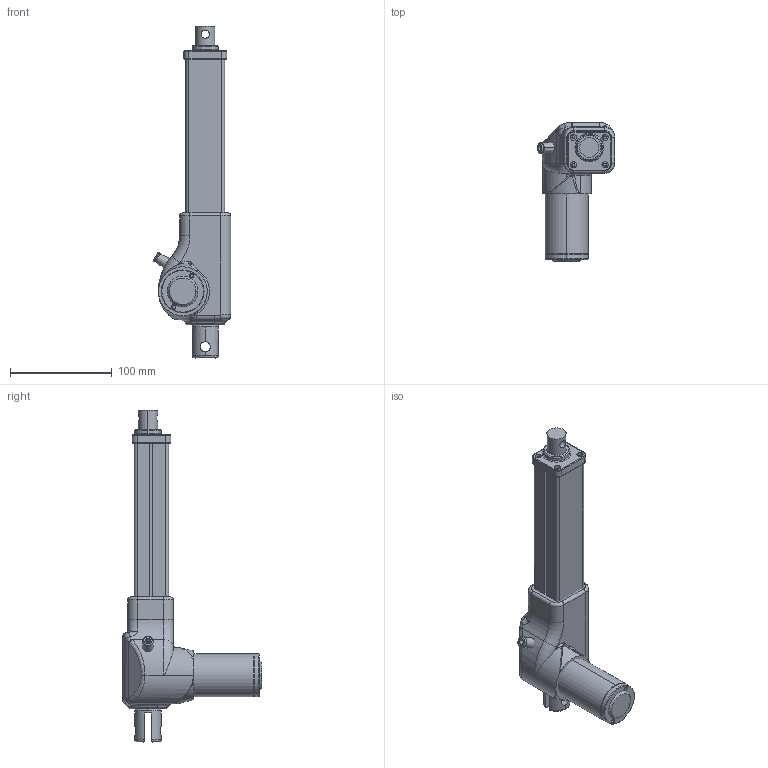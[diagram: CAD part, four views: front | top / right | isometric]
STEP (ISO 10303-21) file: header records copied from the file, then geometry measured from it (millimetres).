
FILE_DESCRIPTION((''),'2;1');
FILE_NAME('LAM2_ASM_ASM','2012-11-06T',('amyliao'),(''),'PRO/ENGINEER BY PARAMETRIC TECHNOLOGY CORPORATION, 2003210','PRO/ENGINEER BY PARAMETRIC TECHNOLOGY CORPORATION, 2003210','');
FILE_SCHEMA(('CONFIG_CONTROL_DESIGN'));
Length unit declared in the file: millimetre
Products named in the file (5): TB; C6F001A1; 01; C6E002A1; LAM2_ASM_ASM
Assembly tree (4 placements, depth 2):
  LAM2_ASM_ASM
    TB
    C6F001A1
    01
    C6E002A1
Bounding box: 76.03 x 136.5 x 326 mm (x, y, z)
Volume: 120652.7 mm3; surface area: 153545.5 mm2
Topology: 3 solids, 8 shells, 359 faces, 1038 edges, 686 vertices
Faces by surface type: cylinder 160, plane 99, torus 47, bspline 37, cone 14, sphere 2
Entity records: 15071 total; most frequent: CARTESIAN_POINT 5660, ORIENTED_EDGE 1970, DIRECTION 1868, EDGE_CURVE 1036, AXIS2_PLACEMENT_3D 708, VERTEX_POINT 686, VECTOR 452, LINE 452
